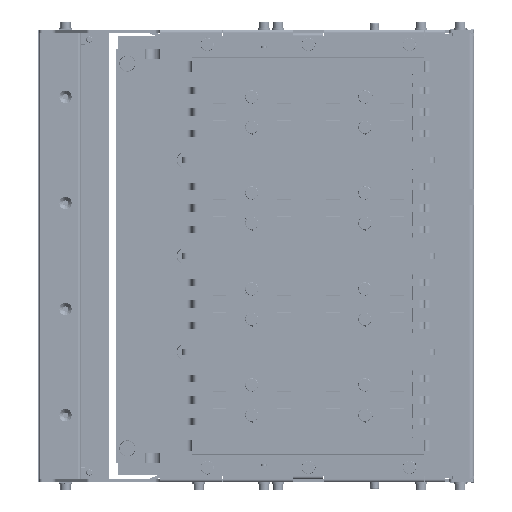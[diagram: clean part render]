
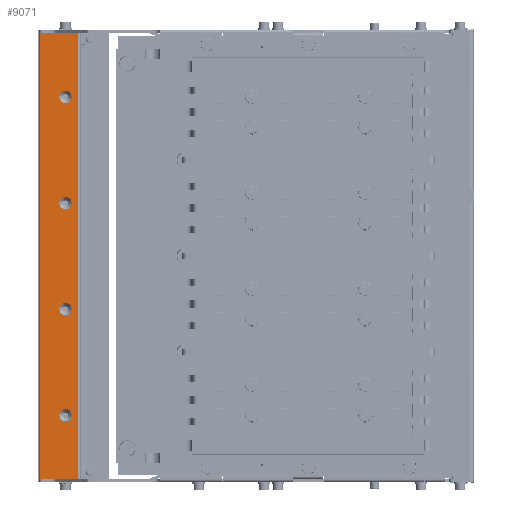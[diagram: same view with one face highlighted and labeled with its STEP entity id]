
A CAD part, left-side view. The second image highlights one B-rep face of the part: STEP entity #9071.
In plain terms, the highlighted planar face has unit normal (-1, 0, 0).
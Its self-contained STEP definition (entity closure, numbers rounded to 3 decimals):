
#5125 = ORIENTED_EDGE ( 'NONE', *, *, #37810, .T. ) ;
#8621 = VERTEX_POINT ( 'NONE', #20983 ) ;
#9071 = ADVANCED_FACE ( 'NONE', ( #132869, #20307, #36911, #178017, #70955 ), #118248, .F. ) ;
#20307 = FACE_BOUND ( 'NONE', #100374, .T. ) ;
#20983 = CARTESIAN_POINT ( 'NONE',  ( 294.756, 591.613, 94.788 ) ) ;
#21202 = CIRCLE ( 'NONE', #330916, 6.1 ) ;
#27820 = VERTEX_POINT ( 'NONE', #407857 ) ;
#30758 = ORIENTED_EDGE ( 'NONE', *, *, #430392, .T. ) ;
#31361 = VECTOR ( 'NONE', #374294, 1000. ) ;
#33591 = CARTESIAN_POINT ( 'NONE',  ( 294.756, 591.613, 106.988 ) ) ;
#35319 = ORIENTED_EDGE ( 'NONE', *, *, #193487, .T. ) ;
#36911 = FACE_BOUND ( 'NONE', #131266, .T. ) ;
#37810 = EDGE_CURVE ( 'NONE', #104214, #266400, #21202, .T. ) ;
#42136 = ORIENTED_EDGE ( 'NONE', *, *, #233350, .T. ) ;
#46186 = EDGE_LOOP ( 'NONE', ( #455273, #35319 ) ) ;
#46916 = CARTESIAN_POINT ( 'NONE',  ( 294.756, 579.413, 269.188 ) ) ;
#47895 = DIRECTION ( 'NONE',  ( 1., 0., 0. ) ) ;
#55059 = AXIS2_PLACEMENT_3D ( 'NONE', #241122, #417383, #134158 ) ;
#56643 = EDGE_CURVE ( 'NONE', #27820, #127617, #127256, .T. ) ;
#69643 = CARTESIAN_POINT ( 'NONE',  ( 294.756, 591.613, 100.888 ) ) ;
#70548 = EDGE_LOOP ( 'NONE', ( #223124, #42136, #166041, #459923 ) ) ;
#70955 = FACE_BOUND ( 'NONE', #46186, .T. ) ;
#74204 = CARTESIAN_POINT ( 'NONE',  ( 294.756, 591.613, 1.988 ) ) ;
#77555 = ORIENTED_EDGE ( 'NONE', *, *, #355763, .T. ) ;
#79012 = CARTESIAN_POINT ( 'NONE',  ( 294.756, 617.613, -172.412 ) ) ;
#87016 = CARTESIAN_POINT ( 'NONE',  ( 294.756, 591.613, -109.112 ) ) ;
#90037 = CIRCLE ( 'NONE', #393817, 6.1 ) ;
#94911 = CARTESIAN_POINT ( 'NONE',  ( 294.756, 591.613, 211.988 ) ) ;
#95380 = ORIENTED_EDGE ( 'NONE', *, *, #446071, .T. ) ;
#100374 = EDGE_LOOP ( 'NONE', ( #5125, #196503 ) ) ;
#101537 = CIRCLE ( 'NONE', #237688, 6.1 ) ;
#104214 = VERTEX_POINT ( 'NONE', #94911 ) ;
#105811 = DIRECTION ( 'NONE',  ( 1., 0., 0. ) ) ;
#118248 = PLANE ( 'NONE',  #311561 ) ;
#125705 = CARTESIAN_POINT ( 'NONE',  ( 294.756, 616.613, 269.188 ) ) ;
#127050 = CARTESIAN_POINT ( 'NONE',  ( 294.756, 591.613, -103.012 ) ) ;
#127256 = LINE ( 'NONE', #46916, #31361 ) ;
#127617 = VERTEX_POINT ( 'NONE', #402050 ) ;
#131266 = EDGE_LOOP ( 'NONE', ( #30758, #134074 ) ) ;
#132869 = FACE_OUTER_BOUND ( 'NONE', #70548, .T. ) ;
#134074 = ORIENTED_EDGE ( 'NONE', *, *, #318894, .T. ) ;
#134158 = DIRECTION ( 'NONE',  ( 0., 0., -1. ) ) ;
#141184 = CIRCLE ( 'NONE', #144080, 6.1 ) ;
#143429 = CARTESIAN_POINT ( 'NONE',  ( 294.756, 591.613, 199.788 ) ) ;
#144080 = AXIS2_PLACEMENT_3D ( 'NONE', #69643, #105811, #357586 ) ;
#150003 = DIRECTION ( 'NONE',  ( 0., -1., 0. ) ) ;
#154539 = DIRECTION ( 'NONE',  ( 1., 0., 0. ) ) ;
#154810 = VERTEX_POINT ( 'NONE', #33591 ) ;
#161389 = CARTESIAN_POINT ( 'NONE',  ( 294.756, 591.613, -4.112 ) ) ;
#165162 = AXIS2_PLACEMENT_3D ( 'NONE', #285286, #318342, #283702 ) ;
#166041 = ORIENTED_EDGE ( 'NONE', *, *, #454026, .T. ) ;
#178017 = FACE_BOUND ( 'NONE', #317988, .T. ) ;
#191310 = DIRECTION ( 'NONE',  ( 0., 0., -1. ) ) ;
#193487 = EDGE_CURVE ( 'NONE', #276638, #404588, #101537, .T. ) ;
#195540 = CARTESIAN_POINT ( 'NONE',  ( 294.756, 617.613, 269.188 ) ) ;
#196503 = ORIENTED_EDGE ( 'NONE', *, *, #433765, .T. ) ;
#200281 = DIRECTION ( 'NONE',  ( 0., 0., -1. ) ) ;
#202698 = DIRECTION ( 'NONE',  ( 0., 0., -1. ) ) ;
#211314 = CIRCLE ( 'NONE', #55059, 6.1 ) ;
#211721 = VERTEX_POINT ( 'NONE', #125705 ) ;
#223124 = ORIENTED_EDGE ( 'NONE', *, *, #311321, .F. ) ;
#224119 = CARTESIAN_POINT ( 'NONE',  ( 294.756, 591.613, -109.112 ) ) ;
#228154 = CARTESIAN_POINT ( 'NONE',  ( 294.756, 591.613, -115.212 ) ) ;
#233350 = EDGE_CURVE ( 'NONE', #211721, #398003, #240620, .T. ) ;
#237306 = CARTESIAN_POINT ( 'NONE',  ( 294.756, 591.613, 100.888 ) ) ;
#237688 = AXIS2_PLACEMENT_3D ( 'NONE', #224119, #292079, #405051 ) ;
#240620 = LINE ( 'NONE', #327814, #302724 ) ;
#241122 = CARTESIAN_POINT ( 'NONE',  ( 294.756, 591.613, -4.112 ) ) ;
#266400 = VERTEX_POINT ( 'NONE', #143429 ) ;
#276638 = VERTEX_POINT ( 'NONE', #228154 ) ;
#279830 = DIRECTION ( 'NONE',  ( 1., 0., 0. ) ) ;
#283702 = DIRECTION ( 'NONE',  ( 0., 0., -1. ) ) ;
#285286 = CARTESIAN_POINT ( 'NONE',  ( 294.756, 591.613, 205.888 ) ) ;
#292079 = DIRECTION ( 'NONE',  ( 1., 0., 0. ) ) ;
#302724 = VECTOR ( 'NONE', #330850, 1000. ) ;
#311321 = EDGE_CURVE ( 'NONE', #211721, #127617, #367409, .T. ) ;
#311561 = AXIS2_PLACEMENT_3D ( 'NONE', #369936, #154539, #407707 ) ;
#317988 = EDGE_LOOP ( 'NONE', ( #95380, #77555 ) ) ;
#318342 = DIRECTION ( 'NONE',  ( 1., 0., 0. ) ) ;
#318894 = EDGE_CURVE ( 'NONE', #8621, #154810, #141184, .T. ) ;
#327814 = CARTESIAN_POINT ( 'NONE',  ( 294.756, 616.613, 269.188 ) ) ;
#328430 = VERTEX_POINT ( 'NONE', #74204 ) ;
#330850 = DIRECTION ( 'NONE',  ( 0., 0., -1. ) ) ;
#330916 = AXIS2_PLACEMENT_3D ( 'NONE', #416667, #421294, #378964 ) ;
#332108 = EDGE_CURVE ( 'NONE', #404588, #276638, #443235, .T. ) ;
#335640 = CIRCLE ( 'NONE', #165162, 6.1 ) ;
#339858 = AXIS2_PLACEMENT_3D ( 'NONE', #87016, #451997, #200281 ) ;
#355763 = EDGE_CURVE ( 'NONE', #374064, #328430, #211314, .T. ) ;
#357586 = DIRECTION ( 'NONE',  ( 0., 0., -1. ) ) ;
#362807 = CARTESIAN_POINT ( 'NONE',  ( 294.756, 591.613, -10.212 ) ) ;
#367409 = LINE ( 'NONE', #195540, #463212 ) ;
#369936 = CARTESIAN_POINT ( 'NONE',  ( 294.756, 617.613, 269.188 ) ) ;
#374064 = VERTEX_POINT ( 'NONE', #362807 ) ;
#374294 = DIRECTION ( 'NONE',  ( 0., 0., 1. ) ) ;
#378964 = DIRECTION ( 'NONE',  ( 0., 0., -1. ) ) ;
#390991 = CIRCLE ( 'NONE', #413266, 6.1 ) ;
#393817 = AXIS2_PLACEMENT_3D ( 'NONE', #161389, #47895, #191310 ) ;
#398003 = VERTEX_POINT ( 'NONE', #453133 ) ;
#402050 = CARTESIAN_POINT ( 'NONE',  ( 294.756, 579.413, 269.188 ) ) ;
#404588 = VERTEX_POINT ( 'NONE', #127050 ) ;
#405051 = DIRECTION ( 'NONE',  ( 0., 0., -1. ) ) ;
#407707 = DIRECTION ( 'NONE',  ( 0., 1., 0. ) ) ;
#407857 = CARTESIAN_POINT ( 'NONE',  ( 294.756, 579.413, -172.412 ) ) ;
#413266 = AXIS2_PLACEMENT_3D ( 'NONE', #237306, #279830, #202698 ) ;
#414157 = DIRECTION ( 'NONE',  ( 0., -1., 0. ) ) ;
#416667 = CARTESIAN_POINT ( 'NONE',  ( 294.756, 591.613, 205.888 ) ) ;
#417383 = DIRECTION ( 'NONE',  ( 1., 0., 0. ) ) ;
#421294 = DIRECTION ( 'NONE',  ( 1., 0., 0. ) ) ;
#430392 = EDGE_CURVE ( 'NONE', #154810, #8621, #390991, .T. ) ;
#433765 = EDGE_CURVE ( 'NONE', #266400, #104214, #335640, .T. ) ;
#443235 = CIRCLE ( 'NONE', #339858, 6.1 ) ;
#446071 = EDGE_CURVE ( 'NONE', #328430, #374064, #90037, .T. ) ;
#451997 = DIRECTION ( 'NONE',  ( 1., 0., 0. ) ) ;
#452414 = LINE ( 'NONE', #79012, #457856 ) ;
#453133 = CARTESIAN_POINT ( 'NONE',  ( 294.756, 616.613, -172.412 ) ) ;
#454026 = EDGE_CURVE ( 'NONE', #398003, #27820, #452414, .T. ) ;
#455273 = ORIENTED_EDGE ( 'NONE', *, *, #332108, .T. ) ;
#457856 = VECTOR ( 'NONE', #150003, 1000. ) ;
#459923 = ORIENTED_EDGE ( 'NONE', *, *, #56643, .T. ) ;
#463212 = VECTOR ( 'NONE', #414157, 1000. ) ;
